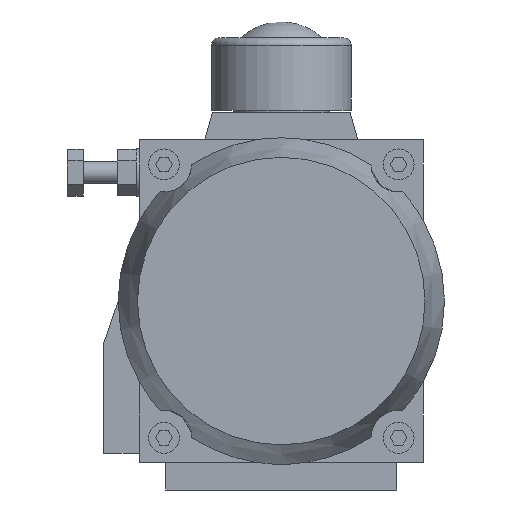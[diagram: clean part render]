
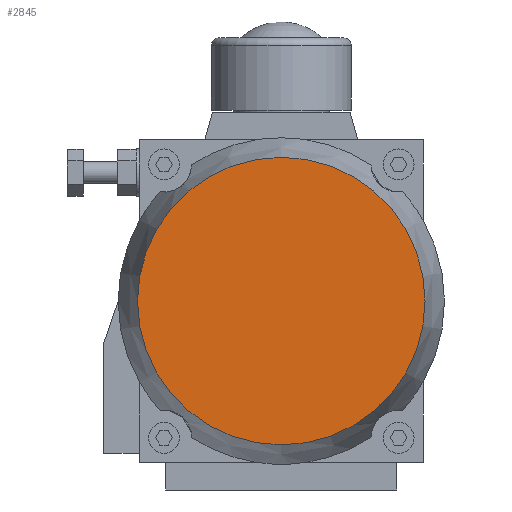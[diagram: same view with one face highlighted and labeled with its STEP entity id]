
A CAD part, front view. The second image highlights one B-rep face of the part: STEP entity #2845.
In plain terms, the highlighted planar face has unit normal (0, -1, 0).
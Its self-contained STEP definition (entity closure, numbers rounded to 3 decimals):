
#1529 = CONICAL_SURFACE('',#1530,63.724,0.25);
#1530 = AXIS2_PLACEMENT_3D('',#1531,#1532,#1533);
#1531 = CARTESIAN_POINT('',(73.787,-152.273,63.183));
#1532 = DIRECTION('',(0.,1.,0.));
#1533 = DIRECTION('',(0.,-0.,1.));
#2698 = VERTEX_POINT('',#2699);
#2699 = CARTESIAN_POINT('',(73.787,-168.085,122.873));
#2719 = EDGE_CURVE('',#2698,#2698,#2720,.T.);
#2720 = SURFACE_CURVE('',#2721,(#2726,#2733),.PCURVE_S1.);
#2721 = CIRCLE('',#2722,59.69);
#2722 = AXIS2_PLACEMENT_3D('',#2723,#2724,#2725);
#2723 = CARTESIAN_POINT('',(73.787,-168.085,63.183));
#2724 = DIRECTION('',(0.,-1.,0.));
#2725 = DIRECTION('',(0.,0.,1.));
#2726 = PCURVE('',#1529,#2727);
#2727 = DEFINITIONAL_REPRESENTATION('',(#2728),#2732);
#2728 = LINE('',#2729,#2730);
#2729 = CARTESIAN_POINT('',(6.283,-15.812));
#2730 = VECTOR('',#2731,1.);
#2731 = DIRECTION('',(-1.,0.));
#2732 = ( GEOMETRIC_REPRESENTATION_CONTEXT(2) 
PARAMETRIC_REPRESENTATION_CONTEXT() REPRESENTATION_CONTEXT('2D SPACE',''
  ) );
#2733 = PCURVE('',#2734,#2739);
#2734 = PLANE('',#2735);
#2735 = AXIS2_PLACEMENT_3D('',#2736,#2737,#2738);
#2736 = CARTESIAN_POINT('',(73.787,-168.085,93.028));
#2737 = DIRECTION('',(0.,-1.,0.));
#2738 = DIRECTION('',(0.,0.,1.));
#2739 = DEFINITIONAL_REPRESENTATION('',(#2740),#2744);
#2740 = CIRCLE('',#2741,59.69);
#2741 = AXIS2_PLACEMENT_2D('',#2742,#2743);
#2742 = CARTESIAN_POINT('',(-29.845,0.));
#2743 = DIRECTION('',(1.,0.));
#2744 = ( GEOMETRIC_REPRESENTATION_CONTEXT(2) 
PARAMETRIC_REPRESENTATION_CONTEXT() REPRESENTATION_CONTEXT('2D SPACE',''
  ) );
#2845 = ADVANCED_FACE('',(#2846),#2734,.T.);
#2846 = FACE_BOUND('',#2847,.T.);
#2847 = EDGE_LOOP('',(#2848));
#2848 = ORIENTED_EDGE('',*,*,#2719,.T.);
